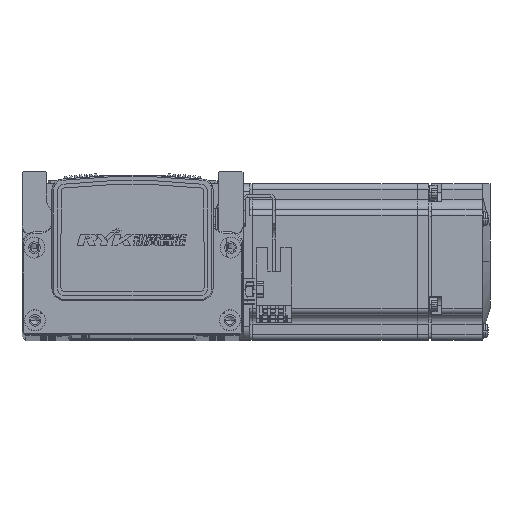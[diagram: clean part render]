
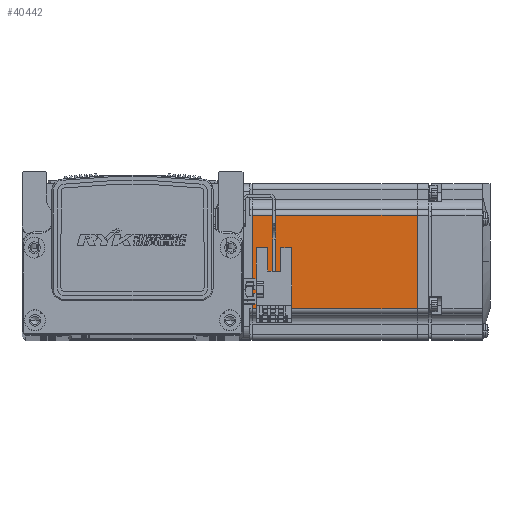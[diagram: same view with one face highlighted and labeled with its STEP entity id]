
A CAD part, top view. The second image highlights one B-rep face of the part: STEP entity #40442.
In plain terms, the highlighted planar face has unit normal (0, 0, 1) as drawn and (0, 0, -1) by its records, which use the part's own axes.
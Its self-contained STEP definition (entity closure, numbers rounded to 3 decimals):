
#9233 = CARTESIAN_POINT ( 'NONE',  ( -70.95, 18., -30. ) ) ;
#9244 = CARTESIAN_POINT ( 'NONE',  ( -70.95, -18., -30. ) ) ;
#9283 = CARTESIAN_POINT ( 'NONE',  ( -7.75, -18., -30. ) ) ;
#9365 = CARTESIAN_POINT ( 'NONE',  ( -7.75, 18., -30. ) ) ;
#25388 = LINE ( 'NONE', #77382, #25483 ) ;
#25418 = VECTOR ( 'NONE', #77412, 1000. ) ;
#25441 = LINE ( 'NONE', #77385, #25418 ) ;
#25483 = VECTOR ( 'NONE', #77402, 1000. ) ;
#25557 = VECTOR ( 'NONE', #77455, 1000. ) ;
#25607 = LINE ( 'NONE', #77469, #25557 ) ;
#25699 = VECTOR ( 'NONE', #77609, 1000. ) ;
#25731 = LINE ( 'NONE', #77602, #25699 ) ;
#29810 = PLANE ( 'NONE',  #42553 ) ;
#29819 = DIRECTION ( 'NONE',  ( 0., 0., -1. ) ) ;
#29823 = CARTESIAN_POINT ( 'NONE',  ( -6.5, 25., -30. ) ) ;
#29834 = DIRECTION ( 'NONE',  ( -1., 0., 0. ) ) ;
#40442 = ADVANCED_FACE ( 'NONE', ( #53116 ), #29810, .T. ) ;
#42553 = AXIS2_PLACEMENT_3D ( 'NONE', #29823, #29819, #29834 ) ;
#45043 = VERTEX_POINT ( 'NONE', #9233 ) ;
#45067 = VERTEX_POINT ( 'NONE', #9283 ) ;
#45112 = VERTEX_POINT ( 'NONE', #9244 ) ;
#45137 = VERTEX_POINT ( 'NONE', #9365 ) ;
#53116 = FACE_OUTER_BOUND ( 'NONE', #64042, .T. ) ;
#59960 = ORIENTED_EDGE ( 'NONE', *, *, #64706, .T. ) ;
#59962 = ORIENTED_EDGE ( 'NONE', *, *, #64668, .T. ) ;
#60005 = ORIENTED_EDGE ( 'NONE', *, *, #64750, .T. ) ;
#60015 = ORIENTED_EDGE ( 'NONE', *, *, #64670, .T. ) ;
#64042 = EDGE_LOOP ( 'NONE', ( #60005, #59960, #59962, #60015 ) ) ;
#64668 = EDGE_CURVE ( 'NONE', #45112, #45043, #25388, .T. ) ;
#64670 = EDGE_CURVE ( 'NONE', #45043, #45137, #25441, .T. ) ;
#64706 = EDGE_CURVE ( 'NONE', #45067, #45112, #25607, .T. ) ;
#64750 = EDGE_CURVE ( 'NONE', #45137, #45067, #25731, .T. ) ;
#77382 = CARTESIAN_POINT ( 'NONE',  ( -70.95, 25., -30. ) ) ;
#77385 = CARTESIAN_POINT ( 'NONE',  ( -6.5, 18., -30. ) ) ;
#77402 = DIRECTION ( 'NONE',  ( 0., 1., 0. ) ) ;
#77412 = DIRECTION ( 'NONE',  ( 1., 0., 0. ) ) ;
#77455 = DIRECTION ( 'NONE',  ( -1., 0., 0. ) ) ;
#77469 = CARTESIAN_POINT ( 'NONE',  ( -6.5, -18., -30. ) ) ;
#77602 = CARTESIAN_POINT ( 'NONE',  ( -7.75, 25., -30. ) ) ;
#77609 = DIRECTION ( 'NONE',  ( 0., -1., 0. ) ) ;
